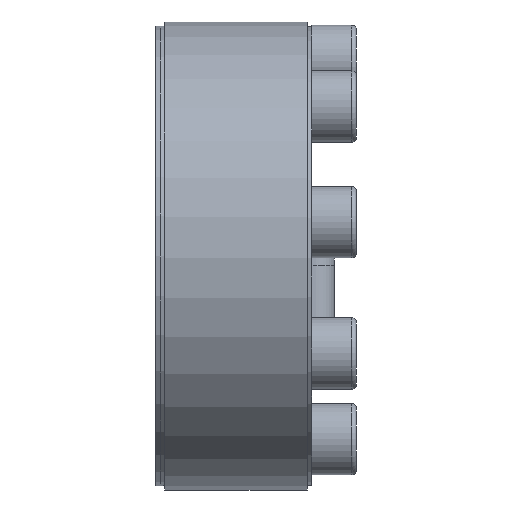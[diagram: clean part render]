
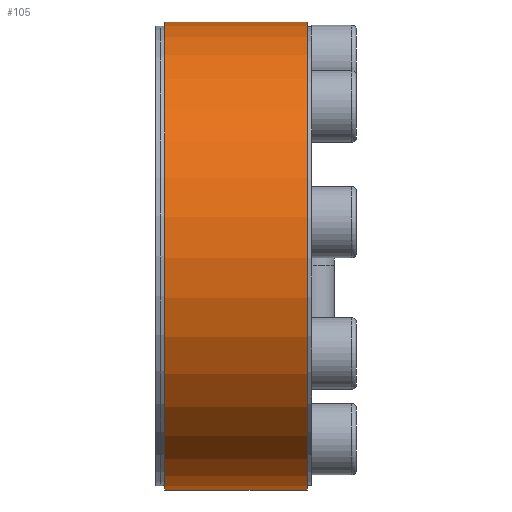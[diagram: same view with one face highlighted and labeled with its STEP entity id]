
A CAD part, left-side view. The second image highlights one B-rep face of the part: STEP entity #105.
In plain terms, the highlighted cylindrical face has radius 52.5 mm (diameter 105 mm), a partial arc.
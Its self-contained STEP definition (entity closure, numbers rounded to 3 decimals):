
#105 = ADVANCED_FACE( '', ( #229 ), #230, .T. );
#229 = FACE_OUTER_BOUND( '', #379, .T. );
#230 = CYLINDRICAL_SURFACE( '', #380, 52.5 );
#379 = EDGE_LOOP( '', ( #634, #635, #636, #637 ) );
#380 = AXIS2_PLACEMENT_3D( '', #638, #639, #640 );
#634 = ORIENTED_EDGE( '', *, *, #809, .F. );
#635 = ORIENTED_EDGE( '', *, *, #831, .T. );
#636 = ORIENTED_EDGE( '', *, *, #855, .T. );
#637 = ORIENTED_EDGE( '', *, *, #839, .F. );
#638 = CARTESIAN_POINT( '', ( 0., -60., 0. ) );
#639 = DIRECTION( '', ( 0., 1., 0. ) );
#640 = DIRECTION( '', ( 0., 0., -1. ) );
#809 = EDGE_CURVE( '', #974, #975, #976, .T. );
#831 = EDGE_CURVE( '', #974, #1015, #1016, .T. );
#839 = EDGE_CURVE( '', #975, #1027, #1028, .T. );
#855 = EDGE_CURVE( '', #1015, #1027, #1053, .T. );
#974 = VERTEX_POINT( '', #1266 );
#975 = VERTEX_POINT( '', #1267 );
#976 = LINE( '', #1268, #1269 );
#1015 = VERTEX_POINT( '', #1321 );
#1016 = CIRCLE( '', #1322, 52.5 );
#1027 = VERTEX_POINT( '', #1336 );
#1028 = CIRCLE( '', #1337, 52.5 );
#1053 = LINE( '', #1374, #1375 );
#1266 = CARTESIAN_POINT( '', ( 17.013, 33., 49.667 ) );
#1267 = CARTESIAN_POINT( '', ( 17.013, 1., 49.667 ) );
#1268 = CARTESIAN_POINT( '', ( 17.013, -60., 49.667 ) );
#1269 = VECTOR( '', #1477, 1000. );
#1321 = CARTESIAN_POINT( '', ( 18.892, 33., 48.983 ) );
#1322 = AXIS2_PLACEMENT_3D( '', #1512, #1513, #1514 );
#1336 = CARTESIAN_POINT( '', ( 18.892, 1., 48.983 ) );
#1337 = AXIS2_PLACEMENT_3D( '', #1524, #1525, #1526 );
#1374 = CARTESIAN_POINT( '', ( 18.892, -60., 48.983 ) );
#1375 = VECTOR( '', #1542, 1000. );
#1477 = DIRECTION( '', ( 0., -1., 0. ) );
#1512 = CARTESIAN_POINT( '', ( 0., 33., 0. ) );
#1513 = DIRECTION( '', ( 0., -1., 0. ) );
#1514 = DIRECTION( '', ( 0., 0., -1. ) );
#1524 = CARTESIAN_POINT( '', ( 0., 1., 0. ) );
#1525 = DIRECTION( '', ( 0., -1., 0. ) );
#1526 = DIRECTION( '', ( 0., 0., -1. ) );
#1542 = DIRECTION( '', ( 0., -1., 0. ) );
